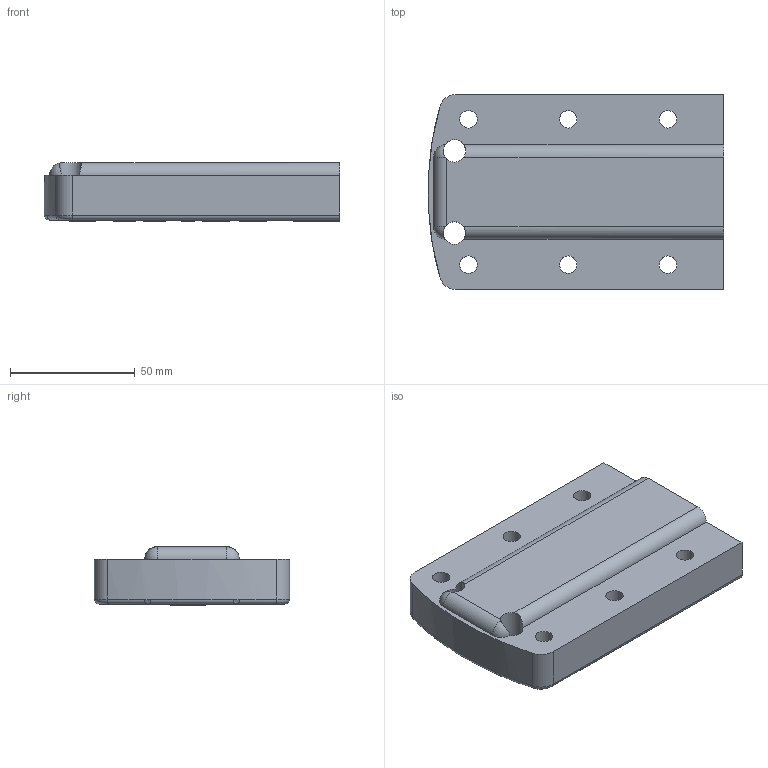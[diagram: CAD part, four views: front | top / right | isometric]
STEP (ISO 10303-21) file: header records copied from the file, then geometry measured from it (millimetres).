
FILE_DESCRIPTION(('STEP AP203'), '1');
FILE_NAME('ãîëîâêà ãðèôà', '', ('UNSPECIFIED'), ('UNSPECIFIED'), 'ASCON STEP Converter 1.3', 'ASCON Math Kernel', '');
FILE_SCHEMA(('CONFIG_CONTROL_DESIGN'));
Length unit declared in the file: millimetre
Bounding box: 118.44 x 78.3 x 23.5 mm (x, y, z)
Volume: 144732.2 mm3; surface area: 36496.8 mm2
Topology: 1 solids, 1 shells, 430 faces, 1253 edges, 830 vertices
Faces by surface type: cylinder 310, plane 109, torus 7, sphere 2, bspline 2
Full cylindrical faces by diameter (mm): 7 x6, 9 x2
Entity records: 18474 total; most frequent: CARTESIAN_POINT 3020, DIRECTION 2728, ORIENTED_EDGE 2482, EDGE_CURVE 1241, AXIS2_PLACEMENT_3D 1070, VERTEX_POINT 830, CIRCLE 641, LINE 588
